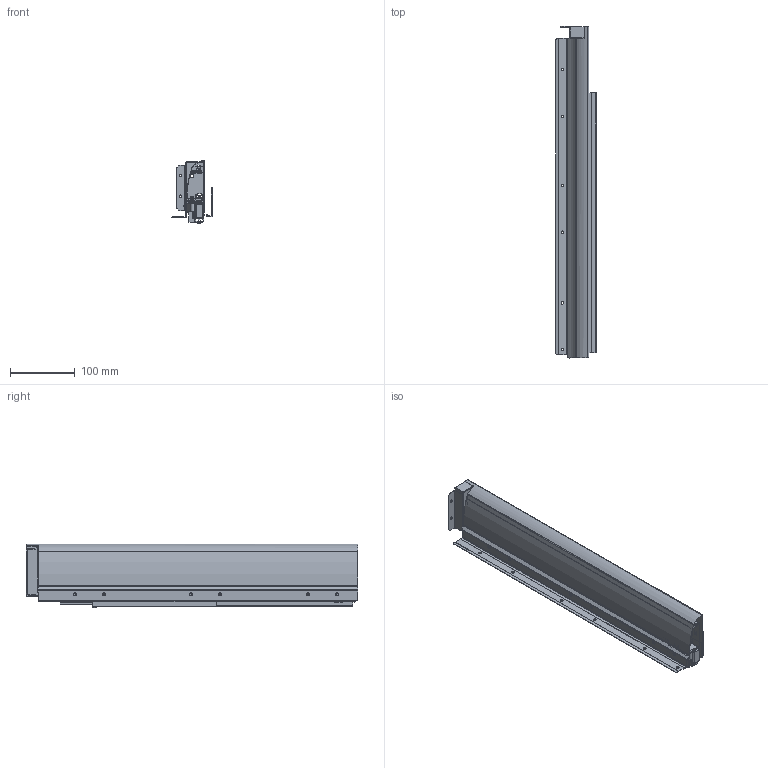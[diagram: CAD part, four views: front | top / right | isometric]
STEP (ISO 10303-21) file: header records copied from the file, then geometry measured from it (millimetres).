
FILE_DESCRIPTION( ( 'Unknown' ), '1' );
FILE_NAME( 'W:/研發專區/RD19克怡/文件申請/A58-3D/轉出/A5807.stp', 'Unknown', ( 'Unknown' ), ( 'Unknown' ), 'PSStep 14.0', 'Unknown', ' ' );
FILE_SCHEMA( ( 'AUTOMOTIVE_DESIGN { 1 0 10303 214 1 1 1 1 }' ) );
Length unit declared in the file: millimetre
Products named in the file (15): W-985背板組件R; W-960-A-1-00; P10-387-0; 側板組件+W-985; W-856-E-0; W-862-E-1-00; P10-661-0-00; A5806; \X2\4E0A6846524D84C\X0\; 上框-new; 中框-new; 下框-new; \X2\64A5687\X0\; P10-939; Assem1
Assembly tree (14 placements, depth 4):
  Assem1
    側板組件+W-985
      W-856-E-0
      W-862-E-1-00
      P10-661-0-00
      W-985背板組件R
        W-960-A-1-00
        P10-387-0
    A5806
      \X2\4E0A6846524D84C\X0\
      上框-new
      中框-new
      下框-new
      \X2\64A5687\X0\
      P10-939
Bounding box: 61.87 x 511.01 x 97.31 mm (x, y, z)
Volume: 281350.1 mm3; surface area: 531891.8 mm2
Topology: 11 solids, 11 shells, 1529 faces, 3991 edges, 2489 vertices
Faces by surface type: plane 742, cylinder 549, torus 117, bspline 101, cone 12, sphere 8
Full cylindrical faces by diameter (mm): 2.5 x2, 3.5 x6, 4.2 x8, 4.5 x12, 6.1 x6, 6.4 x24, 7 x2, 8.6 x2
Entity records: 61998 total; most frequent: CARTESIAN_POINT 12339, DIRECTION 7768, ORIENTED_EDGE 7646, EDGE_CURVE 3823, AXIS2_PLACEMENT_3D 2676, VERTEX_POINT 2445, LINE 2416, VECTOR 2416
